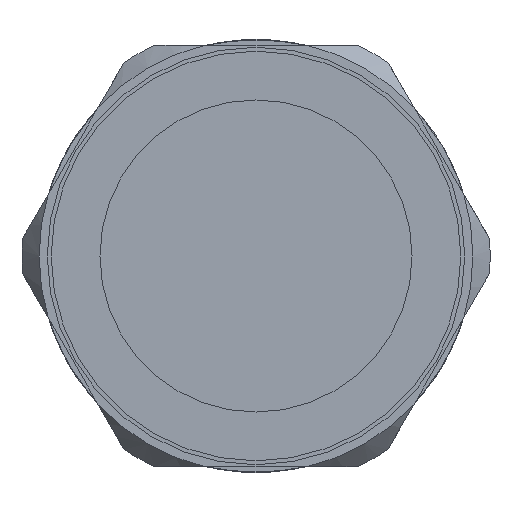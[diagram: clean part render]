
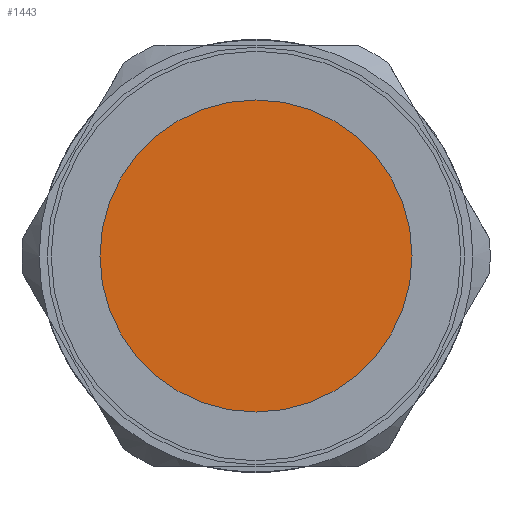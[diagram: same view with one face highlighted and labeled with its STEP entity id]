
A CAD part, left-side view. The second image highlights one B-rep face of the part: STEP entity #1443.
In plain terms, the highlighted planar face has unit normal (-1, 0, 0).
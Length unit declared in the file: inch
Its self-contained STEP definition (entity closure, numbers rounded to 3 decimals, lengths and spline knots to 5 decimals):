
#101=PLANE('',#1610);
#164=FACE_OUTER_BOUND('',#255,.T.);
#255=EDGE_LOOP('',(#1090,#1091));
#482=CIRCLE('',#1608,0.31496);
#483=CIRCLE('',#1609,0.31496);
#602=VERTEX_POINT('',#2379);
#603=VERTEX_POINT('',#2381);
#778=EDGE_CURVE('',#602,#603,#482,.T.);
#779=EDGE_CURVE('',#603,#602,#483,.T.);
#1090=ORIENTED_EDGE('',*,*,#779,.F.);
#1091=ORIENTED_EDGE('',*,*,#778,.F.);
#1443=ADVANCED_FACE('',(#164),#101,.T.);
#1608=AXIS2_PLACEMENT_3D('',#2382,#1936,#1937);
#1609=AXIS2_PLACEMENT_3D('',#2383,#1938,#1939);
#1610=AXIS2_PLACEMENT_3D('',#2384,#1940,#1941);
#1936=DIRECTION('center_axis',(1.,0.,0.));
#1937=DIRECTION('ref_axis',(0.,0.866,-0.5));
#1938=DIRECTION('center_axis',(1.,0.,0.));
#1939=DIRECTION('ref_axis',(0.,0.866,-0.5));
#1940=DIRECTION('center_axis',(-1.,0.,0.));
#1941=DIRECTION('ref_axis',(0.,0.866,-0.5));
#2379=CARTESIAN_POINT('',(-2.01786,-0.17146,-0.18686));
#2381=CARTESIAN_POINT('',(-2.01786,0.37407,-0.50182));
#2382=CARTESIAN_POINT('Origin',(-2.01786,0.1013,-0.34434));
#2383=CARTESIAN_POINT('Origin',(-2.01786,0.1013,-0.34434));
#2384=CARTESIAN_POINT('Origin',(-2.01786,0.1013,-0.34434));
